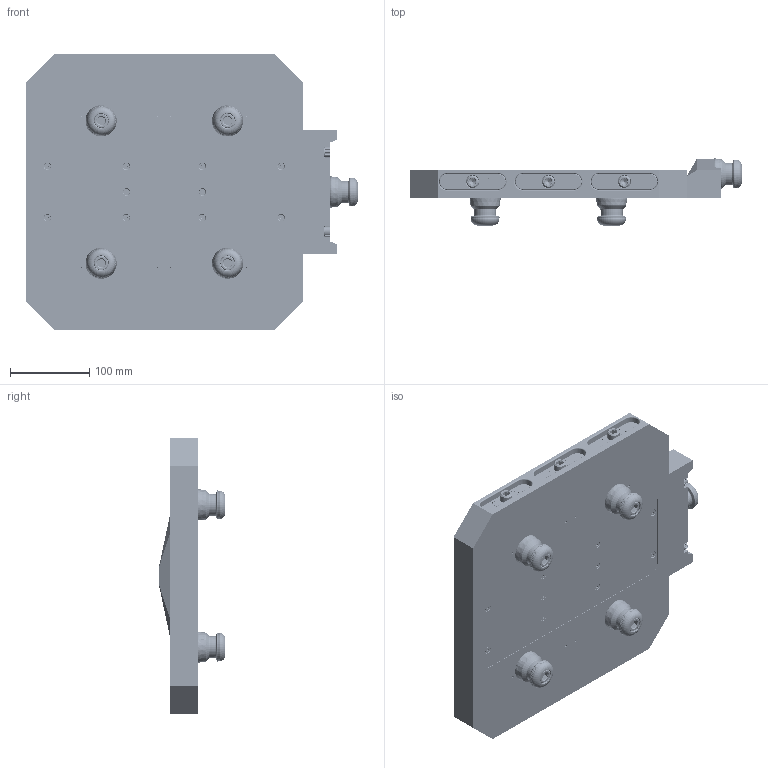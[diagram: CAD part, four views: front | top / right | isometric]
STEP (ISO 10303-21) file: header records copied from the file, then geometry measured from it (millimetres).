
FILE_DESCRIPTION (( 'STEP AP214' ), '1' );
FILE_NAME ('RL96A-DN350-9P_WEBSITE_RENDER.STEP', '2026-08-28T18:01:16', ( '' ), ( '' ), 'SwSTEP 2.0', 'SolidWorks 2024', '' );
FILE_SCHEMA (( 'AUTOMOTIVE_DESIGN' ));
Length unit declared in the file: millimetre
Products named in the file (20): RL96-1DN350A-DoubleDouble; RL96A-DN350-9P_WEBSITE_RENDER; RL96-3_PLATING; SPA 40-16; 033.OR; HW27X20.DB_PLATING; 91290A442_Black-Oxide Alloy Steel Socket Head Screw_91290A442; RL96-2DN350A-DoubleDouble; SB54_FINISHED PART; 5AX-PKL160; SPB 40-16; 40A-16 Pull Stud; RL96-2R_PLATING; RL96 Hardware_Tightened; 91294A194_Black-Oxide Alloy Steel Hex Drive Flat Head Screw_91294A194; RL96-2L; RL96 Hardware; HW.202.OR_9452K183; SPC 40-16; 91290A624_Black-Oxide Alloy Steel Socket Head Screw_91290A624
Assembly tree (64 placements, depth 3):
  RL96A-DN350-9P_WEBSITE_RENDER
    RL96-1DN350A-DoubleDouble
    RL96 Hardware_Tightened  x3
      RL96-2L
      RL96-2R_PLATING
      RL96-3_PLATING
      SB54_FINISHED PART
      033.OR
      HW27X20.DB_PLATING
      HW.202.OR_9452K183
    RL96 Hardware  x3
      RL96-2L
      RL96-2R_PLATING
      RL96-3_PLATING
      SB54_FINISHED PART
      033.OR
      HW27X20.DB_PLATING
      HW.202.OR_9452K183
    RL96-2DN350A-DoubleDouble
    SPA 40-16
    SPB 40-16
    SPC 40-16  x2
    91290A624_Black-Oxide Alloy Steel Socket Head Screw_91290A624  x4
    5AX-PKL160
    91290A442_Black-Oxide Alloy Steel Socket Head Screw_91290A442  x6
    40A-16 Pull Stud
    91294A194_Black-Oxide Alloy Steel Hex Drive Flat Head Screw_91294A194  x10
Bounding box: 420 x 84.7 x 350 mm (x, y, z)
Volume: 4015477.5 mm3; surface area: 821399.4 mm2
Topology: 118 solids, 118 shells, 10939 faces, 29750 edges, 19446 vertices
Faces by surface type: plane 4976, cylinder 2679, torus 1941, bspline 873, cone 470
Full cylindrical faces by diameter (mm): 1.778 x24, 2.642 x12, 3.3 x24, 4 x24, 4.5 x10, 4.7 x12, 5 x12, 5.182 x12, 6.8 x6, 8 x148, 8.204 x12, 8.271 x6, 9 x18, 9.525 x12, 10.025 x2, 10.075 x2, 10.2 x4, 10.795 x6, 11.938 x16, 12 x100, 12.573 x16, 12.6 x6, 14 x17, 14.326 x11, 15.748 x12, 16 x4, 17.221 x1, 17.4 x4, 18.5 x4, 18.618 x1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
Entity records: 122261 total; most frequent: CARTESIAN_POINT 55224, ORIENTED_EDGE 13142, DIRECTION 11305, EDGE_CURVE 6571, VERTEX_POINT 4526, AXIS2_PLACEMENT_3D 4372, EDGE_LOOP 3401, FACE_OUTER_BOUND 2999
